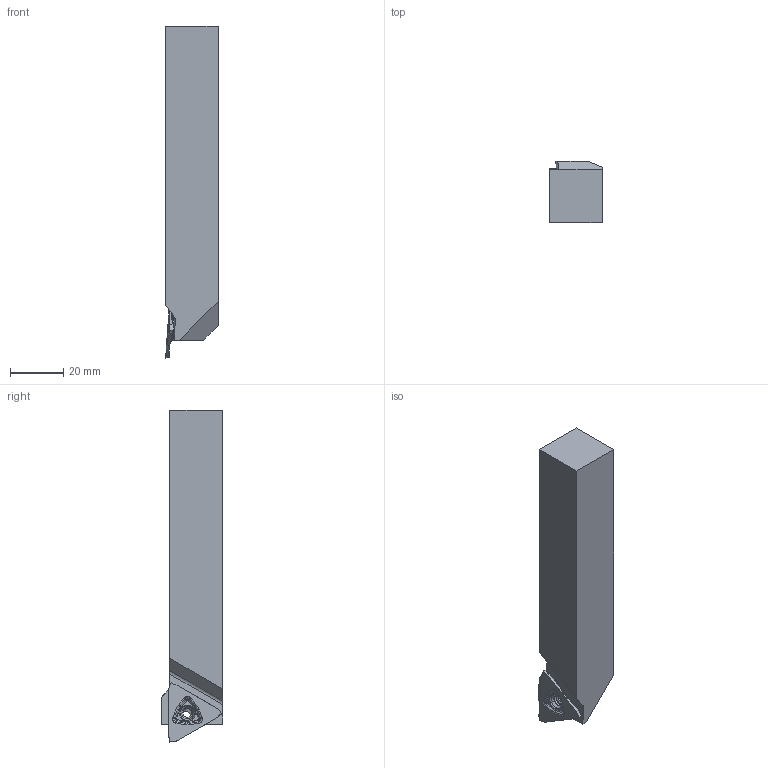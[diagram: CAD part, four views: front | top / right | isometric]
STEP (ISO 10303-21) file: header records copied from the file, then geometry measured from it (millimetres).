
FILE_DESCRIPTION(/* description */ ('3-D model version:1'),/* implementation_level */ '2;1');
FILE_NAME(/* name */ 'RF123T06-2020BM',/* time_stamp */ '2011-11-08T20:31:16+01:00',/* author */ ('CappDp'),/* organization */ ('AB Sandvik Coromant'),/* preprocessor_version */ 'ST-DEVELOPER v11',/* originating_system */ 'SIEMENS UGS NX 6.0',/* authorisation */ '');
FILE_SCHEMA (('AP203_CONFIGURATION_CONTROLLED_3D_DESIGN_OF_MECHANICAL_PARTS_AND_ASSEMBLIES_MIM_LF'));
Length unit declared in the file: millimetre
Products named in the file (1): 2551_2_3D
Bounding box: 19.88 x 23 x 125.01 mm (x, y, z)
Volume: 45315.8 mm3; surface area: 10752.3 mm2
Topology: 2 solids, 2 shells, 217 faces, 544 edges, 329 vertices
Faces by surface type: cylinder 65, plane 61, revolution 33, bspline 31, extrusion 10, cone 9, torus 8
Full cylindrical faces by diameter (mm): 3.3 x1, 4.5 x1
Entity records: 9653 total; most frequent: CARTESIAN_POINT 5077, ORIENTED_EDGE 1074, DIRECTION 641, EDGE_CURVE 537, B_SPLINE_CURVE_WITH_KNOTS 339, VERTEX_POINT 328, EDGE_LOOP 225, ADVANCED_FACE 217
